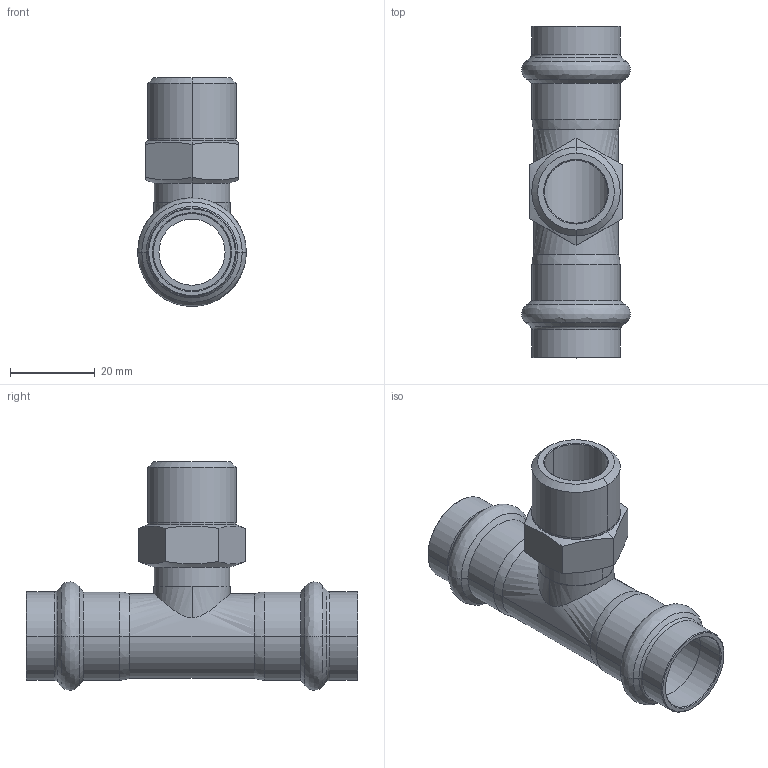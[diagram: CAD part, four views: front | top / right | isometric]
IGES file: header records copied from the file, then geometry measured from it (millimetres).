
Start section: Elysium IGES Interface
Global section: file name: C:\Users\Wallenburg\Desktop\3d modellen sudo\S-Pr VP\SP6132GV\6132GVW181218.igs; native system: CoCreate Modeling 17.00A  17-Jun-2010; preprocessor: CoCreate IGES_3D V2.2; author: Unknown; organization: Unknown; date: 20130123.154632; units: millimetre
Bounding box: 25.7 x 78.51 x 54.14 mm (x, y, z)
Volume: 12803 mm3; surface area: 13921.7 mm2
Topology: 1 solids, 1 shells, 110 faces, 231 edges, 129 vertices
Faces by surface type: bspline 110
